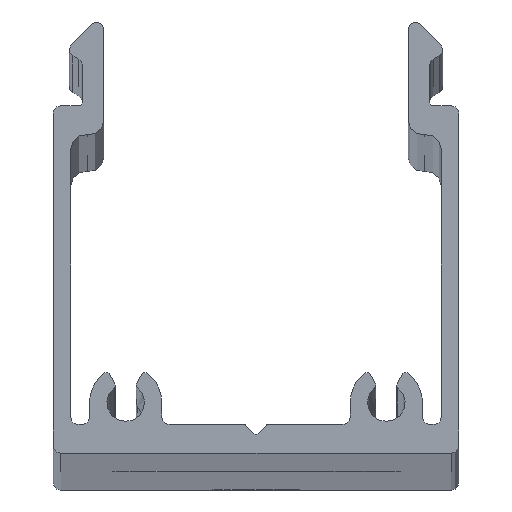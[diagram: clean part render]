
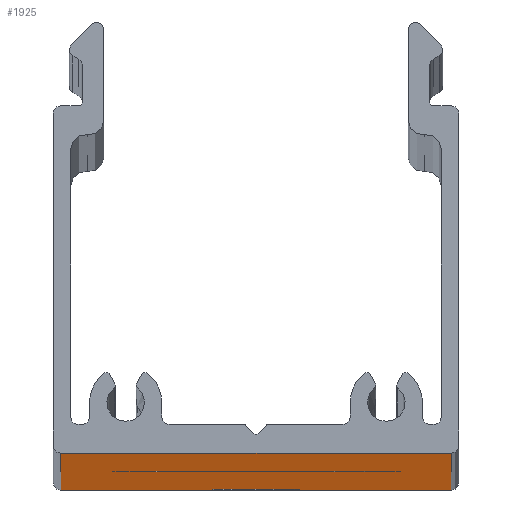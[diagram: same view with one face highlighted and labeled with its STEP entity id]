
A CAD part, top view. The second image highlights one B-rep face of the part: STEP entity #1925.
In plain terms, the highlighted planar face has unit normal (0, -1, 0).
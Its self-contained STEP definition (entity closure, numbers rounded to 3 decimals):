
#20=CIRCLE('',#2049,3.);
#21=CIRCLE('',#2050,3.);
#22=CIRCLE('',#2051,10.);
#129=PLANE('',#2048);
#180=LINE('',#2919,#342);
#181=LINE('',#2922,#343);
#182=LINE('',#2924,#344);
#183=LINE('',#2926,#345);
#342=VECTOR('',#2289,1000.);
#343=VECTOR('',#2290,1000.);
#344=VECTOR('',#2291,1000.);
#345=VECTOR('',#2292,1000.);
#532=ORIENTED_EDGE('',*,*,#1130,.T.);
#533=ORIENTED_EDGE('',*,*,#1131,.F.);
#534=ORIENTED_EDGE('',*,*,#1132,.F.);
#535=ORIENTED_EDGE('',*,*,#1133,.T.);
#536=ORIENTED_EDGE('',*,*,#1134,.T.);
#537=ORIENTED_EDGE('',*,*,#1135,.T.);
#538=ORIENTED_EDGE('',*,*,#1136,.T.);
#1130=EDGE_CURVE('',#1425,#1426,#180,.T.);
#1131=EDGE_CURVE('',#1427,#1426,#181,.T.);
#1132=EDGE_CURVE('',#1428,#1427,#182,.T.);
#1133=EDGE_CURVE('',#1428,#1425,#183,.T.);
#1134=EDGE_CURVE('',#1429,#1429,#20,.T.);
#1135=EDGE_CURVE('',#1430,#1430,#21,.T.);
#1136=EDGE_CURVE('',#1431,#1431,#22,.T.);
#1425=VERTEX_POINT('',#2920);
#1426=VERTEX_POINT('',#2921);
#1427=VERTEX_POINT('',#2923);
#1428=VERTEX_POINT('',#2925);
#1429=VERTEX_POINT('',#2928);
#1430=VERTEX_POINT('',#2930);
#1431=VERTEX_POINT('',#2932);
#1650=EDGE_LOOP('',(#532,#533,#534,#535));
#1651=EDGE_LOOP('',(#536));
#1652=EDGE_LOOP('',(#537));
#1653=EDGE_LOOP('',(#538));
#1758=FACE_BOUND('',#1650,.T.);
#1759=FACE_BOUND('',#1651,.T.);
#1760=FACE_BOUND('',#1652,.T.);
#1761=FACE_BOUND('',#1653,.T.);
#1925=ADVANCED_FACE('',(#1758,#1759,#1760,#1761),#129,.F.);
#2048=AXIS2_PLACEMENT_3D('',#2918,#2287,#2288);
#2049=AXIS2_PLACEMENT_3D('',#2927,#2293,#2294);
#2050=AXIS2_PLACEMENT_3D('',#2929,#2295,#2296);
#2051=AXIS2_PLACEMENT_3D('',#2931,#2297,#2298);
#2287=DIRECTION('',(0.,1.,0.));
#2288=DIRECTION('',(-1.,0.,0.));
#2289=DIRECTION('',(1.,0.,0.));
#2290=DIRECTION('',(0.,0.,-1.));
#2291=DIRECTION('',(1.,0.,0.));
#2292=DIRECTION('',(0.,0.,-1.));
#2293=DIRECTION('',(0.,1.,0.));
#2294=DIRECTION('',(1.,0.,0.));
#2295=DIRECTION('',(0.,1.,0.));
#2296=DIRECTION('',(1.,0.,0.));
#2297=DIRECTION('',(0.,1.,0.));
#2298=DIRECTION('',(0.,0.,-1.));
#2918=CARTESIAN_POINT('',(-13.5,-32.,726.5));
#2919=CARTESIAN_POINT('',(-13.5,-32.,-726.5));
#2920=CARTESIAN_POINT('',(-13.5,-32.,-726.5));
#2921=CARTESIAN_POINT('',(13.5,-32.,-726.5));
#2922=CARTESIAN_POINT('',(13.5,-32.,726.5));
#2923=CARTESIAN_POINT('',(13.5,-32.,726.5));
#2924=CARTESIAN_POINT('',(-13.5,-32.,726.5));
#2925=CARTESIAN_POINT('',(-13.5,-32.,726.5));
#2926=CARTESIAN_POINT('',(-13.5,-32.,726.5));
#2927=CARTESIAN_POINT('',(0.,-32.,706.5));
#2928=CARTESIAN_POINT('',(3.,-32.,706.5));
#2929=CARTESIAN_POINT('',(0.,-32.,-706.5));
#2930=CARTESIAN_POINT('',(3.,-32.,-706.5));
#2931=CARTESIAN_POINT('',(0.,-32.,0.));
#2932=CARTESIAN_POINT('',(0.,-32.,-10.));
